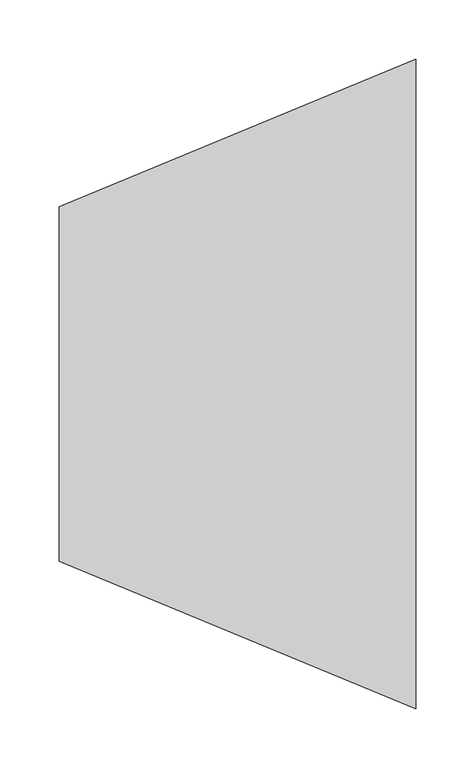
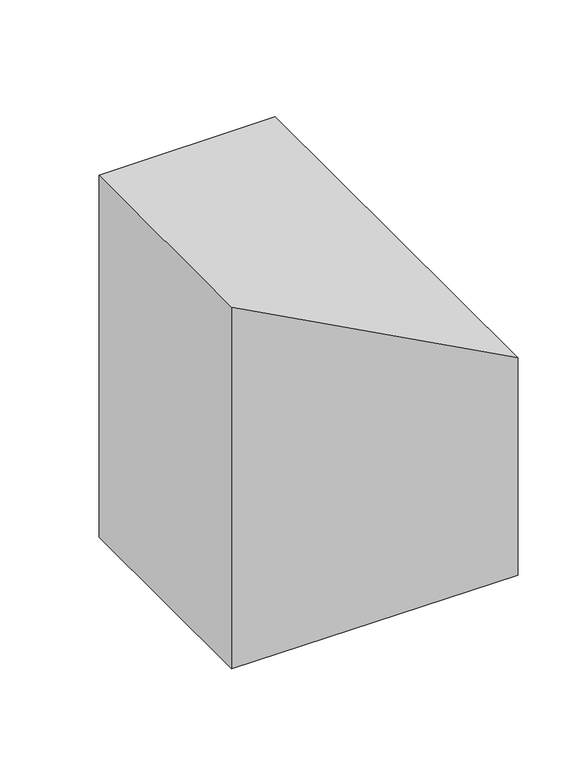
"""IFC4 building model written with IfcOpenShell, lengths in millimetres: duct fitting geometry, M_Transición rectangular - Ángulo : EXT_45 graus."""

from ifc_helpers import new_model, si_unit, origin, place, context, project, spatial, faceted_brep, source, transform, mapped, element, save


def duct_fitting_6cd370d4(model_context):
    return source(origin(), model_context, "Body", "Brep", [
        faceted_brep([(301.7766953, -275.0, 150.0), (301.7766953, -275.0, -150.0), (301.7766953, 275.0, -150.0), (301.7766953, 275.0, 150.0), (0.0, -150.0, 250.0), (0.0, 150.0, 250.0), (0.0, 150.0, -250.0), (0.0, -150.0, -250.0)], [[[0, 1, 2, 3]], [[4, 5, 6, 7]], [[4, 7, 1, 0]], [[7, 6, 2, 1]], [[6, 5, 3, 2]], [[5, 4, 0, 3]]]),
    ])


if __name__ == "__main__":
    model = new_model("IFC4")
    model_context = context("Model", 3, world=origin())
    ifc_project = project(units=[si_unit("LENGTHUNIT", "METRE", prefix="MILLI")], contexts=[model_context])
    site = spatial("IfcSite", under=ifc_project)
    building = spatial("IfcBuilding", under=site)
    placement = place(None, origin())
    duct_fitting_shape = duct_fitting_6cd370d4(model_context)
    element("IfcDuctFitting", 1, ObjectType="M_Transición rectangular - Ángulo : EXT_45 graus", at=placement, inside=building, context=model_context, shape_type="MappedRepresentation", body=[
        mapped(duct_fitting_shape, transform((0.0, 0.0, 0.0), x_axis=(1.0, 0.0, 0.0), y_axis=(0.0, 1.0, 0.0), z_axis=(0.0, 0.0, 1.0))),
    ])
    save(model, "model.ifc")
